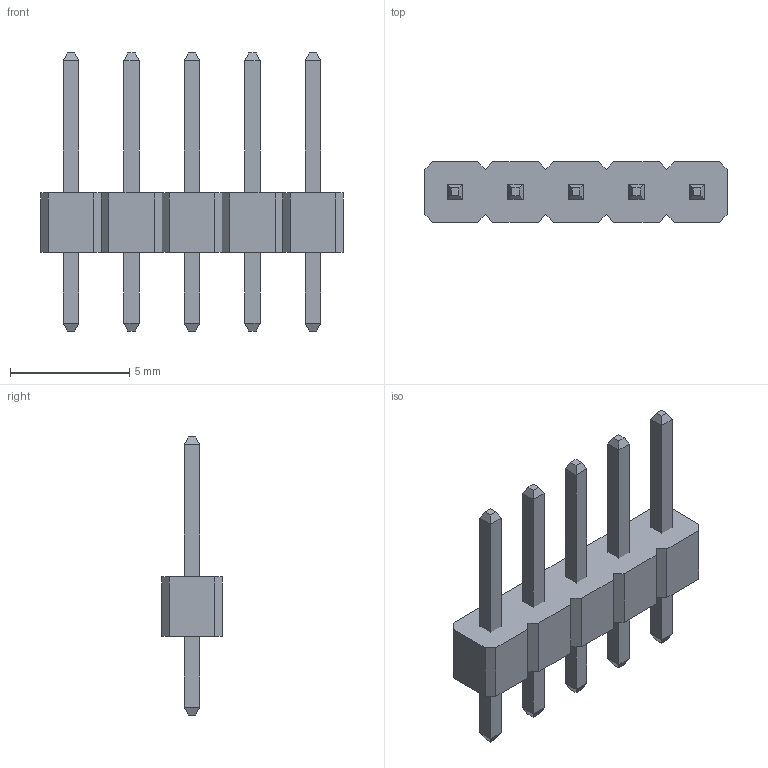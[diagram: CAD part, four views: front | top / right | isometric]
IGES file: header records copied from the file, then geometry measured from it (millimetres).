
Start section: Data from Parasolid IGES Translator 23.1.110, Copyright(c) 2006 Siemens PLM Software. All Rights Reserved.
Global section: file name: 5f3dd4d2933f190f816bc9bc.iges; native system: By Siemens PLM Incorporated; preprocessor: XPlus GENERIC/IGES 23.1.110; author: Noname; organization: Noname; date: 20200820.014138; units: metre
Bounding box: 12.7 x 2.54 x 11.68 mm (x, y, z)
Surface area: 295.4 mm2 (no closed solid volume)
Topology: 0 solids, 0 shells, 134 faces, 592 edges, 592 vertices
Faces by surface type: extrusion 134
